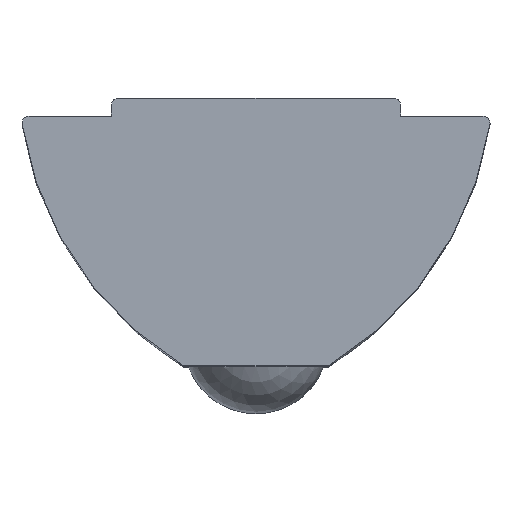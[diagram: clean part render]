
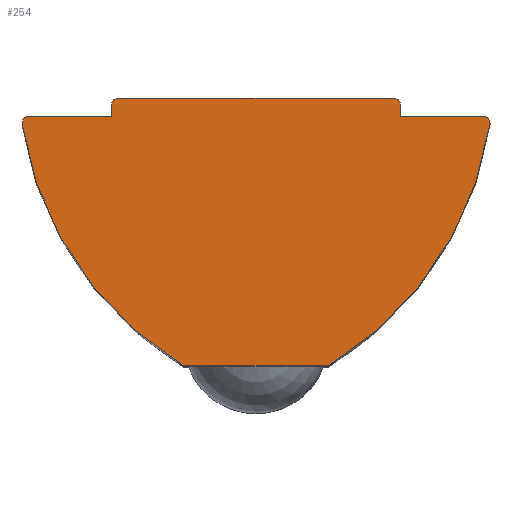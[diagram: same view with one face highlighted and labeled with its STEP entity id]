
A CAD part, top view. The second image highlights one B-rep face of the part: STEP entity #254.
In plain terms, the highlighted planar face has unit normal (0, 0, 1).
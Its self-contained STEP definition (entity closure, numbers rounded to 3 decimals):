
#32 = CARTESIAN_POINT ( 'NONE',  ( -4., 7.2, 11. ) ) ;
#42 = EDGE_LOOP ( 'NONE', ( #558, #348, #737, #359, #363, #374, #385, #387, #388, #391, #403, #405, #413 ) ) ;
#50 = CARTESIAN_POINT ( 'NONE',  ( 3.8, 7.2, 11. ) ) ;
#52 = DIRECTION ( 'NONE',  ( 0., 0., 1. ) ) ;
#59 = DIRECTION ( 'NONE',  ( 1., 0., 0. ) ) ;
#64 = EDGE_CURVE ( 'NONE', #740, #476, #293, .T. ) ;
#68 = CIRCLE ( 'NONE', #535, 0.2 ) ;
#71 = CIRCLE ( 'NONE', #556, 0.2 ) ;
#77 = DIRECTION ( 'NONE',  ( 1., 0., 0. ) ) ;
#78 = CARTESIAN_POINT ( 'NONE',  ( 0., 0., 11. ) ) ;
#82 = DIRECTION ( 'NONE',  ( 0., 1., 0. ) ) ;
#86 = AXIS2_PLACEMENT_3D ( 'NONE', #426, #432, #435 ) ;
#90 = VECTOR ( 'NONE', #99, 1000. ) ;
#92 = LINE ( 'NONE', #337, #90 ) ;
#99 = DIRECTION ( 'NONE',  ( -1., 0., 0. ) ) ;
#109 = CIRCLE ( 'NONE', #617, 9.5 ) ;
#110 = EDGE_CURVE ( 'NONE', #652, #740, #268, .T. ) ;
#113 = CARTESIAN_POINT ( 'NONE',  ( -4., 0., 11. ) ) ;
#114 = DIRECTION ( 'NONE',  ( 1., 0., 0. ) ) ;
#115 = CARTESIAN_POINT ( 'NONE',  ( 6.269, 6.7, 11. ) ) ;
#117 = DIRECTION ( 'NONE',  ( 0., 0., 1. ) ) ;
#121 = CIRCLE ( 'NONE', #543, 0.2 ) ;
#123 = DIRECTION ( 'NONE',  ( 0., 0., 1. ) ) ;
#131 = DIRECTION ( 'NONE',  ( 1., 0., 0. ) ) ;
#134 = PLANE ( 'NONE',  #648 ) ;
#136 = CARTESIAN_POINT ( 'NONE',  ( 0., 0., 11. ) ) ;
#144 = EDGE_CURVE ( 'NONE', #826, #398, #239, .T. ) ;
#162 = DIRECTION ( 'NONE',  ( 0., 0., 1. ) ) ;
#175 = LINE ( 'NONE', #78, #177 ) ;
#177 = VECTOR ( 'NONE', #77, 1000. ) ;
#182 = AXIS2_PLACEMENT_3D ( 'NONE', #690, #893, #921 ) ;
#188 = DIRECTION ( 'NONE',  ( 1., 0., 0. ) ) ;
#193 = FACE_OUTER_BOUND ( 'NONE', #42, .T. ) ;
#239 = CIRCLE ( 'NONE', #851, 9.5 ) ;
#250 = VECTOR ( 'NONE', #789, 1000. ) ;
#254 = ADVANCED_FACE ( 'NONE', ( #193 ), #134, .T. ) ;
#268 = LINE ( 'NONE', #824, #250 ) ;
#271 = EDGE_CURVE ( 'NONE', #398, #729, #175, .T. ) ;
#288 = VECTOR ( 'NONE', #82, 1000. ) ;
#293 = LINE ( 'NONE', #113, #288 ) ;
#294 = EDGE_CURVE ( 'NONE', #584, #729, #109, .T. ) ;
#304 = EDGE_CURVE ( 'NONE', #735, #813, #92, .T. ) ;
#309 = EDGE_CURVE ( 'NONE', #584, #735, #71, .T. ) ;
#312 = EDGE_CURVE ( 'NONE', #401, #671, #121, .T. ) ;
#313 = DIRECTION ( 'NONE',  ( 0., 0., -1. ) ) ;
#320 = EDGE_CURVE ( 'NONE', #559, #476, #68, .T. ) ;
#337 = CARTESIAN_POINT ( 'NONE',  ( 0., 6.9, 11. ) ) ;
#340 = VERTEX_POINT ( 'NONE', #929 ) ;
#348 = ORIENTED_EDGE ( 'NONE', *, *, #407, .T. ) ;
#359 = ORIENTED_EDGE ( 'NONE', *, *, #144, .T. ) ;
#363 = ORIENTED_EDGE ( 'NONE', *, *, #271, .T. ) ;
#374 = ORIENTED_EDGE ( 'NONE', *, *, #294, .F. ) ;
#385 = ORIENTED_EDGE ( 'NONE', *, *, #309, .T. ) ;
#387 = ORIENTED_EDGE ( 'NONE', *, *, #304, .T. ) ;
#388 = ORIENTED_EDGE ( 'NONE', *, *, #400, .T. ) ;
#391 = ORIENTED_EDGE ( 'NONE', *, *, #312, .T. ) ;
#398 = VERTEX_POINT ( 'NONE', #742 ) ;
#400 = EDGE_CURVE ( 'NONE', #813, #401, #707, .T. ) ;
#401 = VERTEX_POINT ( 'NONE', #571 ) ;
#403 = ORIENTED_EDGE ( 'NONE', *, *, #519, .T. ) ;
#405 = ORIENTED_EDGE ( 'NONE', *, *, #320, .T. ) ;
#407 = EDGE_CURVE ( 'NONE', #652, #340, #682, .T. ) ;
#413 = ORIENTED_EDGE ( 'NONE', *, *, #64, .F. ) ;
#426 = CARTESIAN_POINT ( 'NONE',  ( -6.269, 6.7, 11. ) ) ;
#432 = DIRECTION ( 'NONE',  ( 0., 0., 1. ) ) ;
#435 = DIRECTION ( 'NONE',  ( 1., 0., 0. ) ) ;
#439 = CARTESIAN_POINT ( 'NONE',  ( 6.269, 6.9, 11. ) ) ;
#463 = CARTESIAN_POINT ( 'NONE',  ( -6.269, 6.9, 11. ) ) ;
#476 = VERTEX_POINT ( 'NONE', #32 ) ;
#486 = CARTESIAN_POINT ( 'NONE',  ( -6.467, 6.669, 11. ) ) ;
#509 = CIRCLE ( 'NONE', #86, 0.2 ) ;
#519 = EDGE_CURVE ( 'NONE', #671, #559, #649, .T. ) ;
#535 = AXIS2_PLACEMENT_3D ( 'NONE', #930, #162, #188 ) ;
#543 = AXIS2_PLACEMENT_3D ( 'NONE', #50, #52, #59 ) ;
#556 = AXIS2_PLACEMENT_3D ( 'NONE', #115, #123, #131 ) ;
#558 = ORIENTED_EDGE ( 'NONE', *, *, #110, .F. ) ;
#559 = VERTEX_POINT ( 'NONE', #882 ) ;
#571 = CARTESIAN_POINT ( 'NONE',  ( 4., 7.2, 11. ) ) ;
#584 = VERTEX_POINT ( 'NONE', #688 ) ;
#600 = VECTOR ( 'NONE', #900, 1000. ) ;
#617 = AXIS2_PLACEMENT_3D ( 'NONE', #877, #313, #836 ) ;
#629 = CARTESIAN_POINT ( 'NONE',  ( 2., 0., 11. ) ) ;
#630 = DIRECTION ( 'NONE',  ( 1., 0., 0. ) ) ;
#644 = DIRECTION ( 'NONE',  ( 0., 0., 1. ) ) ;
#647 = CARTESIAN_POINT ( 'NONE',  ( 2.921, 8.126, 11. ) ) ;
#648 = AXIS2_PLACEMENT_3D ( 'NONE', #136, #117, #114 ) ;
#649 = LINE ( 'NONE', #949, #600 ) ;
#652 = VERTEX_POINT ( 'NONE', #463 ) ;
#671 = VERTEX_POINT ( 'NONE', #705 ) ;
#672 = VECTOR ( 'NONE', #744, 1000. ) ;
#682 = CIRCLE ( 'NONE', #182, 0.2 ) ;
#688 = CARTESIAN_POINT ( 'NONE',  ( 6.467, 6.669, 11. ) ) ;
#690 = CARTESIAN_POINT ( 'NONE',  ( -6.269, 6.7, 11. ) ) ;
#705 = CARTESIAN_POINT ( 'NONE',  ( 3.8, 7.4, 11. ) ) ;
#707 = LINE ( 'NONE', #714, #672 ) ;
#714 = CARTESIAN_POINT ( 'NONE',  ( 4., 0., 11. ) ) ;
#729 = VERTEX_POINT ( 'NONE', #629 ) ;
#735 = VERTEX_POINT ( 'NONE', #439 ) ;
#737 = ORIENTED_EDGE ( 'NONE', *, *, #881, .T. ) ;
#740 = VERTEX_POINT ( 'NONE', #799 ) ;
#742 = CARTESIAN_POINT ( 'NONE',  ( -2., 0., 11. ) ) ;
#744 = DIRECTION ( 'NONE',  ( 0., 1., 0. ) ) ;
#789 = DIRECTION ( 'NONE',  ( 1., 0., 0. ) ) ;
#799 = CARTESIAN_POINT ( 'NONE',  ( -4., 6.9, 11. ) ) ;
#813 = VERTEX_POINT ( 'NONE', #815 ) ;
#815 = CARTESIAN_POINT ( 'NONE',  ( 4., 6.9, 11. ) ) ;
#824 = CARTESIAN_POINT ( 'NONE',  ( 0., 6.9, 11. ) ) ;
#826 = VERTEX_POINT ( 'NONE', #486 ) ;
#836 = DIRECTION ( 'NONE',  ( 1., 0., 0. ) ) ;
#851 = AXIS2_PLACEMENT_3D ( 'NONE', #647, #644, #630 ) ;
#877 = CARTESIAN_POINT ( 'NONE',  ( -2.921, 8.126, 11. ) ) ;
#881 = EDGE_CURVE ( 'NONE', #340, #826, #509, .T. ) ;
#882 = CARTESIAN_POINT ( 'NONE',  ( -3.8, 7.4, 11. ) ) ;
#893 = DIRECTION ( 'NONE',  ( 0., 0., 1. ) ) ;
#900 = DIRECTION ( 'NONE',  ( -1., 0., 0. ) ) ;
#921 = DIRECTION ( 'NONE',  ( 1., 0., 0. ) ) ;
#929 = CARTESIAN_POINT ( 'NONE',  ( -6.469, 6.7, 11. ) ) ;
#930 = CARTESIAN_POINT ( 'NONE',  ( -3.8, 7.2, 11. ) ) ;
#949 = CARTESIAN_POINT ( 'NONE',  ( 0., 7.4, 11. ) ) ;
